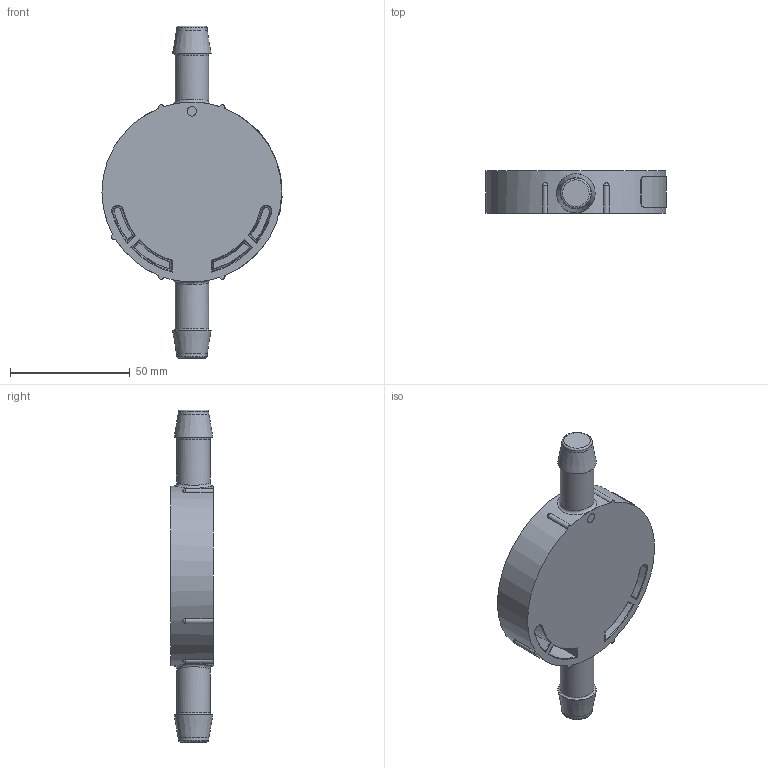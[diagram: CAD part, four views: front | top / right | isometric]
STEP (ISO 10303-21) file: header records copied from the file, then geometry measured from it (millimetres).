
FILE_DESCRIPTION(/* description */ (''),/* implementation_level */ '2;1');
FILE_NAME(/* name */ 'SDO4NZA1 External.stp',/* time_stamp */ '2024-02-12T15:41:49-05:00',/* author */ ('kdone'),/* organization */ (''),/* preprocessor_version */ 'ST-DEVELOPER v19.2',/* originating_system */ 'Autodesk Inventor 2023',/* authorisation */ '');
FILE_SCHEMA (('AUTOMOTIVE_DESIGN { 1 0 10303 214 3 1 1 }'));
Length unit declared in the file: inch
Products named in the file (1): SDO4NZA1-I-PrototypeR2
Bounding box: 75.07 x 17.78 x 138.43 mm (x, y, z)
Volume: 85255.3 mm3; surface area: 19380.6 mm2
Topology: 3 solids, 3 shells, 123 faces, 309 edges, 194 vertices
Faces by surface type: plane 33, cylinder 27, torus 24, bspline 22, cone 12, sphere 5
Full cylindrical faces by diameter (mm): 4 x1, 13.995 x2, 74.93 x1
Entity records: 4896 total; most frequent: CARTESIAN_POINT 2107, ORIENTED_EDGE 600, DIRECTION 524, EDGE_CURVE 300, AXIS2_PLACEMENT_3D 215, VERTEX_POINT 192, EDGE_LOOP 132, FACE_OUTER_BOUND 121
